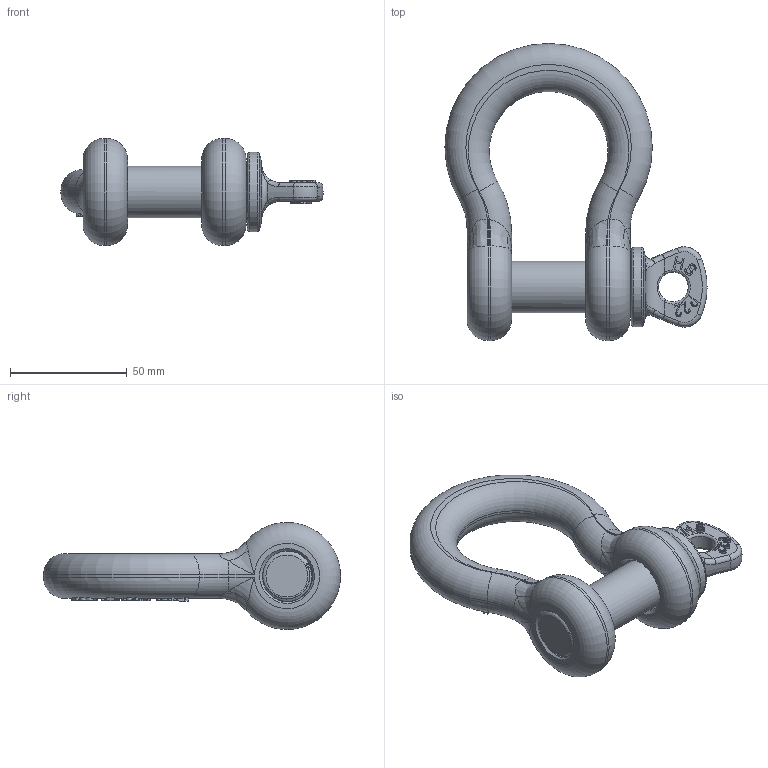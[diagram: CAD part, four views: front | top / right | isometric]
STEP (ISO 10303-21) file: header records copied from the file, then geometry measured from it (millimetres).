
FILE_DESCRIPTION(/* description */ (''),/* implementation_level */ '2;1');
FILE_NAME(/* name */ 'G-209A-3-4.stp',/* time_stamp */ '2025-04-08T08:22:38+08:00',/* author */ (''),/* organization */ (''),/* preprocessor_version */ 'ST-DEVELOPER v16',/* originating_system */ 'SIEMENS PLM Software NX 10.0',/* authorisation */ '');
FILE_SCHEMA (('AP203_CONFIGURATION_CONTROLLED_3D_DESIGN_OF_MECHANICAL_PARTS_AND_ASSEMBLIES_MIM_LF { 1 0 10303 403 2 1 2}'));
Length unit declared in the file: millimetre
Products named in the file (1): Admi20FC52B4dhrg
Bounding box: 112.5 x 127.5 x 46 mm (x, y, z)
Volume: 133723.3 mm3; surface area: 32459.6 mm2
Topology: 2 solids, 2 shells, 538 faces, 1490 edges, 961 vertices
Faces by surface type: plane 234, extrusion 137, cylinder 69, bspline 52, torus 37, cone 8, sphere 1
Full cylindrical faces by diameter (mm): 12.7 x1, 22 x6, 23.5 x1, 34 x1
Entity records: 22948 total; most frequent: CARTESIAN_POINT 10928, ORIENTED_EDGE 2868, DIRECTION 1781, EDGE_CURVE 1434, VERTEX_POINT 935, B_SPLINE_CURVE_WITH_KNOTS 855, VECTOR 609, AXIS2_PLACEMENT_3D 586
